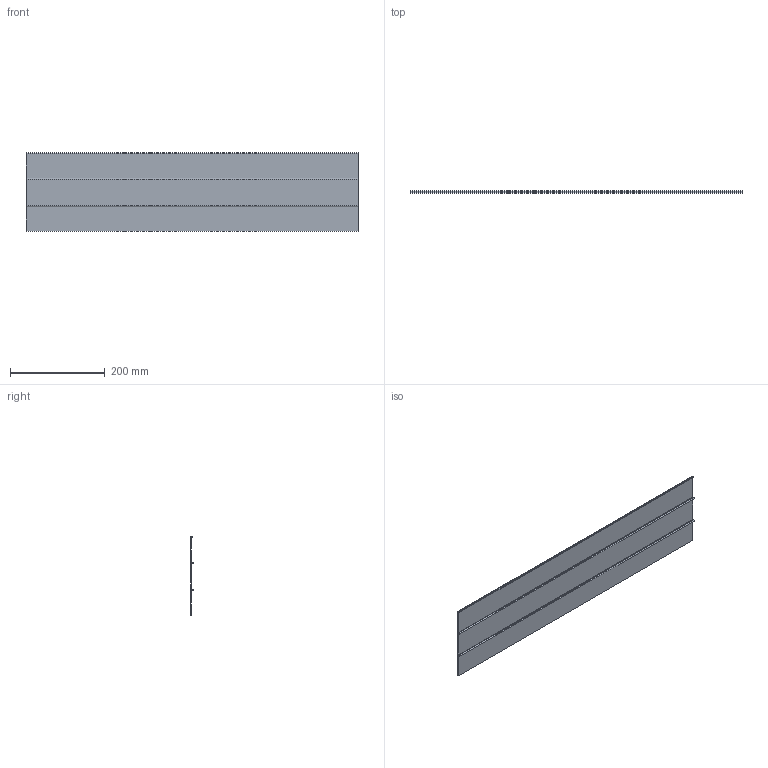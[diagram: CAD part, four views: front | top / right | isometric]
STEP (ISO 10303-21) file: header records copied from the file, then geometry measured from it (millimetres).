
FILE_DESCRIPTION (( 'STEP AP214' ), '1' );
FILE_NAME ('53371.STEP', '2021-01-16T06:47:14', ( '' ), ( '' ), 'SwSTEP 2.0', 'SolidWorks 2017', '' );
FILE_SCHEMA (( 'AUTOMOTIVE_DESIGN' ));
Length unit declared in the file: millimetre
Products named in the file (2): 53371
Bounding box: 700 x 6.11 x 165.9 mm (x, y, z)
Volume: 223230.5 mm3; surface area: 249509.8 mm2
Topology: 1 solids, 1 shells, 18 faces, 48 edges, 32 vertices
Faces by surface type: plane 14, cylinder 4
Entity records: 609 total; most frequent: CARTESIAN_POINT 100, ORIENTED_EDGE 96, DIRECTION 96, EDGE_CURVE 48, VECTOR 40, LINE 40, VERTEX_POINT 32, AXIS2_PLACEMENT_3D 28
